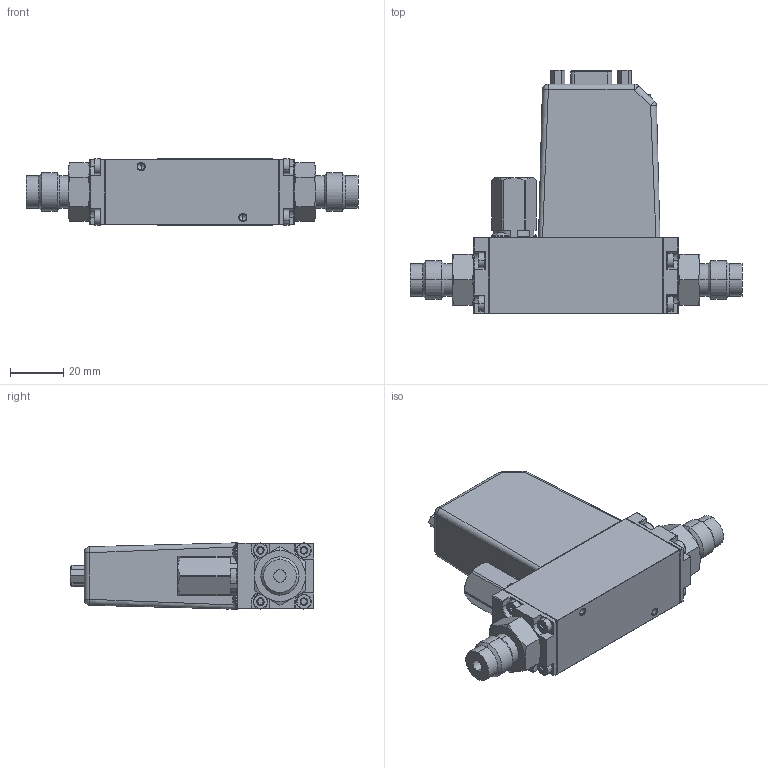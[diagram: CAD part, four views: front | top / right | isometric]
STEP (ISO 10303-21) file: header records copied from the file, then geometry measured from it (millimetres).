
FILE_DESCRIPTION (( 'STEP AP203' ), '1' );
FILE_NAME ('129275-_Publikationsmodell SFC5400_VCR.step', '2018-01-04T13:38:46', ( 'IT' ), ( '' ), 'SwSTEP 2.0', 'SolidWorks 2017', '' );
FILE_SCHEMA (( 'CONFIG_CONTROL_DESIGN' ));
Length unit declared in the file: millimetre
Products named in the file (8): M03-0037_00; swa_SS-4-VCR-1-00032_00; 129252_SFC5400_VCR; swa_SS-4-VCR-1-00032-gekürzt_00; 129252_SFC5400_VCR_gek〉zt; 05_Zylinderschraube mit Innensechsrund ISO 14580_M03x08; 129275-_Publikationsmodell SFC5400_VCR; 129048
Assembly tree (15 placements, depth 3):
  129275-_Publikationsmodell SFC5400_VCR
    129048
    129252_SFC5400_VCR
      M03-0037_00
      swa_SS-4-VCR-1-00032_00
    129252_SFC5400_VCR_gek〉zt
      M03-0037_00
      swa_SS-4-VCR-1-00032-gekürzt_00
    05_Zylinderschraube mit Innensechsrund ISO 14580_M03x08  x8
Bounding box: 124.15 x 91.2 x 24.8 mm (x, y, z)
Volume: 122705.4 mm3; surface area: 30276 mm2
Topology: 15 solids, 17 shells, 1413 faces, 3602 edges, 2251 vertices
Faces by surface type: plane 826, cylinder 326, cone 196, torus 41, bspline 20, sphere 4
Entity records: 34827 total; most frequent: CARTESIAN_POINT 7004, ORIENTED_EDGE 5652, DIRECTION 5410, EDGE_CURVE 2826, LINE 2180, VECTOR 2180, VERTEX_POINT 1790, AXIS2_PLACEMENT_3D 1615
